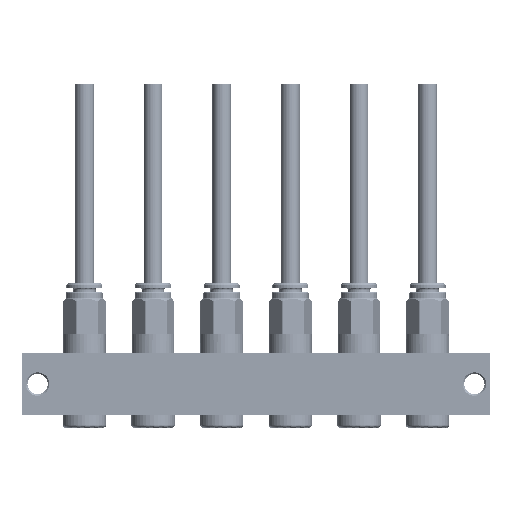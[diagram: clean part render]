
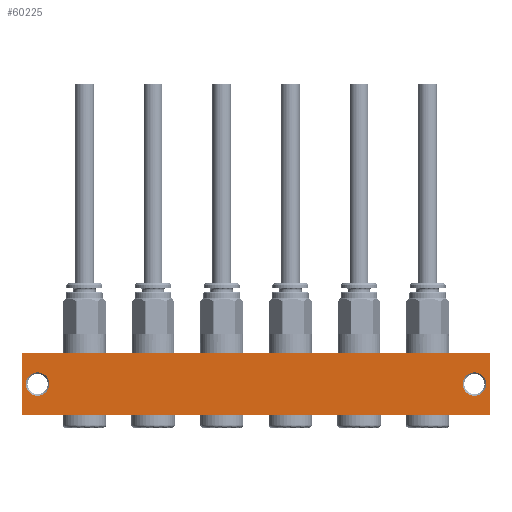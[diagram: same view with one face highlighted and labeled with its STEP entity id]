
A CAD part, front view. The second image highlights one B-rep face of the part: STEP entity #60225.
In plain terms, the highlighted planar face has unit normal (0, -1, 0).
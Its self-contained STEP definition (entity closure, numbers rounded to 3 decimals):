
#1862 = FACE_OUTER_BOUND ( 'NONE', #70332, .T. ) ;
#3106 = ORIENTED_EDGE ( 'NONE', *, *, #46929, .F. ) ;
#5417 = DIRECTION ( 'NONE',  ( 0., 0., 1. ) ) ;
#5566 = ORIENTED_EDGE ( 'NONE', *, *, #28542, .F. ) ;
#8056 = CIRCLE ( 'NONE', #51296, 3.75 ) ;
#9427 = DIRECTION ( 'NONE',  ( 0., 0., -1. ) ) ;
#11579 = DIRECTION ( 'NONE',  ( 0., 0., 1. ) ) ;
#12556 = VECTOR ( 'NONE', #9427, 1000. ) ;
#14914 = VERTEX_POINT ( 'NONE', #29733 ) ;
#14981 = DIRECTION ( 'NONE',  ( 0., 1., 0. ) ) ;
#15498 = CARTESIAN_POINT ( 'NONE',  ( -75., 0., 10. ) ) ;
#16662 = DIRECTION ( 'NONE',  ( 1., 0., 0. ) ) ;
#18194 = ORIENTED_EDGE ( 'NONE', *, *, #42474, .T. ) ;
#19002 = EDGE_CURVE ( 'NONE', #48132, #22930, #33011, .T. ) ;
#19160 = VERTEX_POINT ( 'NONE', #35018 ) ;
#21144 = FACE_BOUND ( 'NONE', #45329, .T. ) ;
#22930 = VERTEX_POINT ( 'NONE', #55434 ) ;
#23038 = CARTESIAN_POINT ( 'NONE',  ( 70., 0., 3.75 ) ) ;
#23832 = VERTEX_POINT ( 'NONE', #39769 ) ;
#24840 = ORIENTED_EDGE ( 'NONE', *, *, #60097, .T. ) ;
#25106 = AXIS2_PLACEMENT_3D ( 'NONE', #49423, #14981, #61416 ) ;
#28542 = EDGE_CURVE ( 'NONE', #23832, #14914, #52669, .T. ) ;
#28602 = CARTESIAN_POINT ( 'NONE',  ( 70., 0., 0. ) ) ;
#29011 = LINE ( 'NONE', #46459, #64382 ) ;
#29733 = CARTESIAN_POINT ( 'NONE',  ( 75., 0., -10. ) ) ;
#31444 = AXIS2_PLACEMENT_3D ( 'NONE', #28602, #34043, #5417 ) ;
#33011 = LINE ( 'NONE', #55485, #12556 ) ;
#34043 = DIRECTION ( 'NONE',  ( 0., 1., 0. ) ) ;
#35018 = CARTESIAN_POINT ( 'NONE',  ( -70., 0., 3.75 ) ) ;
#37649 = CIRCLE ( 'NONE', #31444, 3.75 ) ;
#39769 = CARTESIAN_POINT ( 'NONE',  ( 75., 0., 10. ) ) ;
#39915 = DIRECTION ( 'NONE',  ( 0., 0., -1. ) ) ;
#42474 = EDGE_CURVE ( 'NONE', #52450, #52450, #37649, .T. ) ;
#43621 = FACE_BOUND ( 'NONE', #52472, .T. ) ;
#44384 = PLANE ( 'NONE',  #25106 ) ;
#45329 = EDGE_LOOP ( 'NONE', ( #18194 ) ) ;
#46459 = CARTESIAN_POINT ( 'NONE',  ( 75., 0., 10. ) ) ;
#46929 = EDGE_CURVE ( 'NONE', #48132, #23832, #29011, .T. ) ;
#47113 = LINE ( 'NONE', #71114, #67167 ) ;
#48132 = VERTEX_POINT ( 'NONE', #15498 ) ;
#49423 = CARTESIAN_POINT ( 'NONE',  ( 75., 0., 10. ) ) ;
#51296 = AXIS2_PLACEMENT_3D ( 'NONE', #75446, #70403, #11579 ) ;
#52450 = VERTEX_POINT ( 'NONE', #23038 ) ;
#52472 = EDGE_LOOP ( 'NONE', ( #72819 ) ) ;
#52669 = LINE ( 'NONE', #76276, #68484 ) ;
#55434 = CARTESIAN_POINT ( 'NONE',  ( -75., 0., -10. ) ) ;
#55485 = CARTESIAN_POINT ( 'NONE',  ( -75., 0., 10. ) ) ;
#59118 = DIRECTION ( 'NONE',  ( 1., 0., 0. ) ) ;
#60097 = EDGE_CURVE ( 'NONE', #22930, #14914, #47113, .T. ) ;
#60225 = ADVANCED_FACE ( 'NONE', ( #21144, #43621, #1862 ), #44384, .F. ) ;
#61416 = DIRECTION ( 'NONE',  ( 0., 0., 1. ) ) ;
#64382 = VECTOR ( 'NONE', #16662, 1000. ) ;
#65809 = EDGE_CURVE ( 'NONE', #19160, #19160, #8056, .T. ) ;
#67167 = VECTOR ( 'NONE', #59118, 1000. ) ;
#68484 = VECTOR ( 'NONE', #39915, 1000. ) ;
#70332 = EDGE_LOOP ( 'NONE', ( #24840, #5566, #3106, #74265 ) ) ;
#70403 = DIRECTION ( 'NONE',  ( 0., 1., 0. ) ) ;
#71114 = CARTESIAN_POINT ( 'NONE',  ( 75., 0., -10. ) ) ;
#72819 = ORIENTED_EDGE ( 'NONE', *, *, #65809, .T. ) ;
#74265 = ORIENTED_EDGE ( 'NONE', *, *, #19002, .T. ) ;
#75446 = CARTESIAN_POINT ( 'NONE',  ( -70., 0., 0. ) ) ;
#76276 = CARTESIAN_POINT ( 'NONE',  ( 75., 0., 10. ) ) ;
